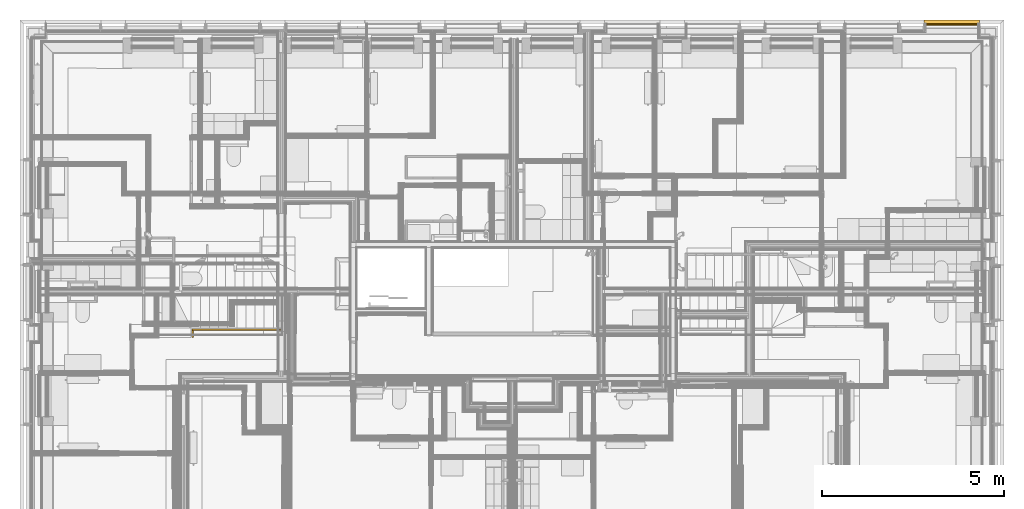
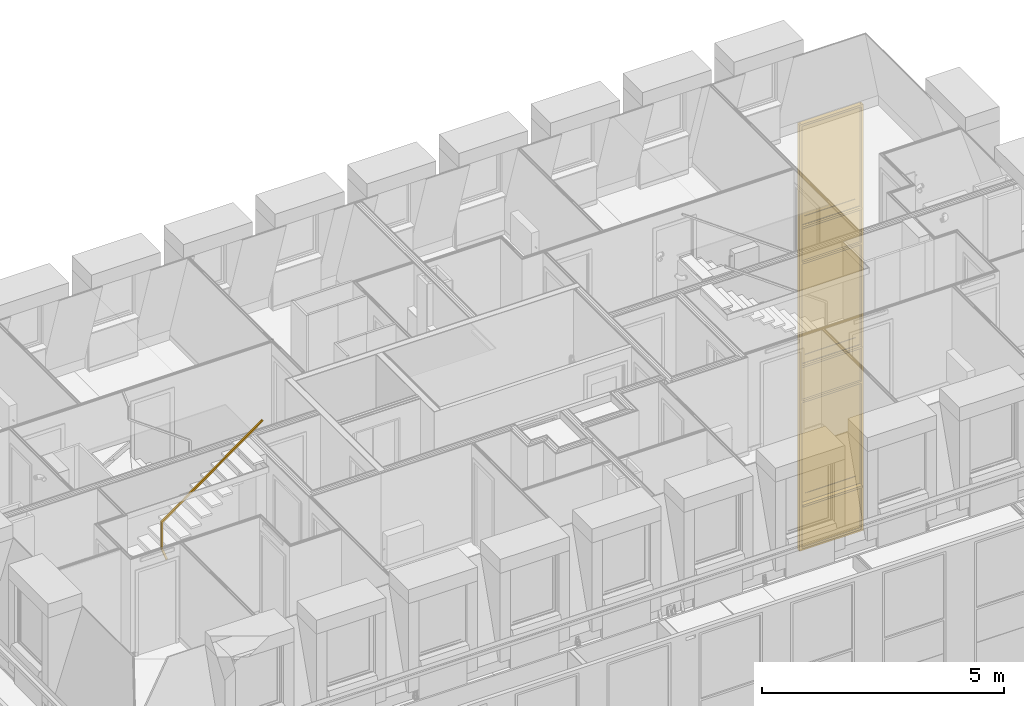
# One storey, part 141 of 169: 1 curtain wall, 1 railing.
"""IFC2X3 building model written with IfcOpenShell, lengths in metres."""

from ifc_helpers import new_model, entity, si_unit, converted_unit, derived_unit, money_unit, direction, frame, origin_with_axes, place, context, subcontext, project, spatial, faceted_brep, material, type_object, element, save


model = new_model("IFC2X3")

# Units and contexts
model_context = context("Model", 3, precision=1e-05, world=origin_with_axes(), true_north=direction((0.0, 1.0)))
body_context = subcontext(model_context, "Body", "Model", "MODEL_VIEW", scale=1.0)
ifc_project = project(units=[si_unit("LENGTHUNIT", "METRE"), si_unit("AREAUNIT", "SQUARE_METRE"), si_unit("VOLUMEUNIT", "CUBIC_METRE"), si_unit("ABSORBEDDOSEUNIT", "GRAY"), si_unit("AMOUNTOFSUBSTANCEUNIT", "MOLE"), si_unit("DOSEEQUIVALENTUNIT", "SIEVERT"), si_unit("ELECTRICCAPACITANCEUNIT", "FARAD"), si_unit("ELECTRICCHARGEUNIT", "COULOMB"), si_unit("ELECTRICCONDUCTANCEUNIT", "SIEMENS"), si_unit("ELECTRICCURRENTUNIT", "AMPERE"), si_unit("ELECTRICRESISTANCEUNIT", "OHM"), si_unit("ELECTRICVOLTAGEUNIT", "VOLT"), si_unit("ENERGYUNIT", "JOULE"), si_unit("FORCEUNIT", "NEWTON"), si_unit("FREQUENCYUNIT", "HERTZ"), si_unit("ILLUMINANCEUNIT", "LUX"), si_unit("INDUCTANCEUNIT", "HENRY"), si_unit("LUMINOUSFLUXUNIT", "LUMEN"), si_unit("LUMINOUSINTENSITYUNIT", "CANDELA"), si_unit("MAGNETICFLUXDENSITYUNIT", "TESLA"), si_unit("MAGNETICFLUXUNIT", "WEBER"), si_unit("MASSUNIT", "GRAM"), converted_unit("PLANEANGLEUNIT", "degree", entity("IfcReal", 0.0174532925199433), si_unit("PLANEANGLEUNIT", "RADIAN"), dimensions=[0, 0, 0, 0, 0, 0, 0]), si_unit("POWERUNIT", "WATT"), si_unit("PRESSUREUNIT", "PASCAL"), si_unit("RADIOACTIVITYUNIT", "BECQUEREL"), si_unit("SOLIDANGLEUNIT", "STERADIAN"), si_unit("THERMODYNAMICTEMPERATUREUNIT", "KELVIN"), si_unit("TIMEUNIT", "SECOND"), derived_unit("ACCELERATIONUNIT", [(si_unit("LENGTHUNIT", "METRE"), 1), (si_unit("TIMEUNIT", "SECOND"), -2)]), derived_unit("ANGULARVELOCITYUNIT", [(converted_unit("PLANEANGLEUNIT", "degree", entity("IfcReal", 0.0174532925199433), si_unit("PLANEANGLEUNIT", "RADIAN"), dimensions=[0, 0, 0, 0, 0, 0, 0]), 1), (si_unit("TIMEUNIT", "SECOND"), -1)]), derived_unit("CURVATUREUNIT", [(converted_unit("PLANEANGLEUNIT", "degree", entity("IfcReal", 0.0174532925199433), si_unit("PLANEANGLEUNIT", "RADIAN"), dimensions=[0, 0, 0, 0, 0, 0, 0]), 1), (si_unit("LENGTHUNIT", "METRE"), -1)]), derived_unit("DYNAMICVISCOSITYUNIT", [(si_unit("PRESSUREUNIT", "PASCAL"), 1), (si_unit("TIMEUNIT", "SECOND"), 1)]), derived_unit("HEATFLUXDENSITYUNIT", [(si_unit("POWERUNIT", "WATT"), 1), (si_unit("LENGTHUNIT", "METRE"), -2)]), derived_unit("HEATINGVALUEUNIT", [(si_unit("ENERGYUNIT", "JOULE"), 1), (si_unit("MASSUNIT", "GRAM"), -1)]), derived_unit("INTEGERCOUNTRATEUNIT", [(si_unit("TIMEUNIT", "SECOND"), -1)]), derived_unit("IONCONCENTRATIONUNIT", [(si_unit("MASSUNIT", "GRAM"), 1), (si_unit("VOLUMEUNIT", "CUBIC_METRE"), -1)]), derived_unit("ISOTHERMALMOISTURECAPACITYUNIT", [(si_unit("VOLUMEUNIT", "CUBIC_METRE"), 1), (si_unit("MASSUNIT", "GRAM"), -1)]), derived_unit("KINEMATICVISCOSITYUNIT", [(si_unit("AREAUNIT", "SQUARE_METRE"), 1), (si_unit("TIMEUNIT", "SECOND"), -1)]), derived_unit("LINEARFORCEUNIT", [(si_unit("FORCEUNIT", "NEWTON"), 1), (si_unit("LENGTHUNIT", "METRE"), -1)]), derived_unit("LINEARMOMENTUNIT", [(si_unit("FORCEUNIT", "NEWTON"), 1), (si_unit("LENGTHUNIT", "METRE"), -1)]), derived_unit("LINEARSTIFFNESSUNIT", [(si_unit("FORCEUNIT", "NEWTON"), 1), (si_unit("LENGTHUNIT", "METRE"), -1)]), derived_unit("LINEARVELOCITYUNIT", [(si_unit("LENGTHUNIT", "METRE"), 1), (si_unit("TIMEUNIT", "SECOND"), -1)]), derived_unit("LUMINOUSINTENSITYDISTRIBUTIONUNIT", [(si_unit("LUMINOUSINTENSITYUNIT", "CANDELA"), 1), (si_unit("LUMINOUSFLUXUNIT", "LUMEN"), -1)]), derived_unit("MASSDENSITYUNIT", [(si_unit("MASSUNIT", "GRAM"), 1), (si_unit("VOLUMEUNIT", "CUBIC_METRE"), -1)]), derived_unit("MASSFLOWRATEUNIT", [(si_unit("MASSUNIT", "GRAM"), 1), (si_unit("TIMEUNIT", "SECOND"), -1)]), derived_unit("MASSPERLENGTHUNIT", [(si_unit("MASSUNIT", "GRAM"), 1), (si_unit("LENGTHUNIT", "METRE"), -1)]), derived_unit("MODULUSOFELASTICITYUNIT", [(si_unit("FORCEUNIT", "NEWTON"), 1), (si_unit("AREAUNIT", "SQUARE_METRE"), -1)]), derived_unit("MODULUSOFLINEARSUBGRADEREACTIONUNIT", [(si_unit("FORCEUNIT", "NEWTON"), 1), (si_unit("LENGTHUNIT", "METRE"), -2)]), derived_unit("MODULUSOFROTATIONALSUBGRADEREACTIONUNIT", [(si_unit("FORCEUNIT", "NEWTON"), 1), (si_unit("LENGTHUNIT", "METRE"), 1)]), derived_unit("MODULUSOFSUBGRADEREACTIONUNIT", [(si_unit("FORCEUNIT", "NEWTON"), 1), (si_unit("VOLUMEUNIT", "CUBIC_METRE"), -1)]), derived_unit("MOISTUREDIFFUSIVITYUNIT", [(si_unit("VOLUMEUNIT", "CUBIC_METRE"), 1), (si_unit("TIMEUNIT", "SECOND"), -1)]), derived_unit("MOLECULARWEIGHTUNIT", [(si_unit("MASSUNIT", "GRAM"), 1), (si_unit("AMOUNTOFSUBSTANCEUNIT", "MOLE"), -1)]), derived_unit("PLANARFORCEUNIT", [(si_unit("FORCEUNIT", "NEWTON"), 1), (si_unit("LENGTHUNIT", "METRE"), -2)]), derived_unit("ROTATIONALFREQUENCYUNIT", [(si_unit("TIMEUNIT", "SECOND"), -1)]), derived_unit("ROTATIONALMASSUNIT", [(si_unit("MASSUNIT", "GRAM"), 1), (si_unit("LENGTHUNIT", "METRE"), 2)]), derived_unit("ROTATIONALSTIFFNESSUNIT", [(si_unit("FORCEUNIT", "NEWTON"), 1), (si_unit("LENGTHUNIT", "METRE"), 1), (converted_unit("PLANEANGLEUNIT", "degree", entity("IfcReal", 0.0174532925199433), si_unit("PLANEANGLEUNIT", "RADIAN"), dimensions=[0, 0, 0, 0, 0, 0, 0]), -1)]), derived_unit("SECTIONAREAINTEGRALUNIT", [(si_unit("LENGTHUNIT", "METRE"), 5)]), derived_unit("SECTIONMODULUSUNIT", [(si_unit("LENGTHUNIT", "METRE"), 3)]), derived_unit("SHEARMODULUSUNIT", [(si_unit("FORCEUNIT", "NEWTON"), 1), (si_unit("AREAUNIT", "SQUARE_METRE"), -1)]), derived_unit("SOUNDPOWERUNIT", [(si_unit("ENERGYUNIT", "JOULE"), 1), (si_unit("TIMEUNIT", "SECOND"), -1)]), derived_unit("SPECIFICHEATCAPACITYUNIT", [(si_unit("FORCEUNIT", "NEWTON"), 1), (si_unit("MASSUNIT", "GRAM"), -1), (si_unit("THERMODYNAMICTEMPERATUREUNIT", "KELVIN"), -1)]), derived_unit("TEMPERATUREGRADIENTUNIT", [(si_unit("THERMODYNAMICTEMPERATUREUNIT", "KELVIN"), 1), (si_unit("LENGTHUNIT", "METRE"), -1)]), derived_unit("THERMALADMITTANCEUNIT", [(si_unit("POWERUNIT", "WATT"), 1), (si_unit("AREAUNIT", "SQUARE_METRE"), -1), (si_unit("THERMODYNAMICTEMPERATUREUNIT", "KELVIN"), -1)]), derived_unit("THERMALCONDUCTANCEUNIT", [(si_unit("POWERUNIT", "WATT"), 1), (si_unit("LENGTHUNIT", "METRE"), -1), (si_unit("THERMODYNAMICTEMPERATUREUNIT", "KELVIN"), -1)]), derived_unit("THERMALEXPANSIONCOEFFICIENTUNIT", [(si_unit("THERMODYNAMICTEMPERATUREUNIT", "KELVIN"), -1)]), derived_unit("THERMALRESISTANCEUNIT", [(si_unit("AREAUNIT", "SQUARE_METRE"), 1), (si_unit("POWERUNIT", "WATT"), -1)]), derived_unit("THERMALTRANSMITTANCEUNIT", [(si_unit("POWERUNIT", "WATT"), 1), (si_unit("AREAUNIT", "SQUARE_METRE"), -1), (si_unit("THERMODYNAMICTEMPERATUREUNIT", "KELVIN"), -1)]), derived_unit("TORQUEUNIT", [(si_unit("FORCEUNIT", "NEWTON"), 1), (si_unit("LENGTHUNIT", "METRE"), 1)]), derived_unit("VAPORPERMEABILITYUNIT", [(si_unit("MASSUNIT", "GRAM"), 1), (si_unit("TIMEUNIT", "SECOND"), -1)]), derived_unit("VOLUMETRICFLOWRATEUNIT", [(si_unit("VOLUMEUNIT", "CUBIC_METRE"), 1), (si_unit("TIMEUNIT", "SECOND"), -1)]), derived_unit("WARPINGCONSTANTUNIT", [(si_unit("LENGTHUNIT", "METRE"), 6)]), derived_unit("WARPINGMOMENTUNIT", [(si_unit("FORCEUNIT", "NEWTON"), 1), (si_unit("LENGTHUNIT", "METRE"), 2)]), money_unit("GBP")], contexts=[model_context])

# Site, building, storey
site_placement = place(None, origin_with_axes())
site = spatial("IfcSite", under=ifc_project, at=site_placement, Name="Site", CompositionType="ELEMENT")
building_placement = place(site_placement, origin_with_axes())
building = spatial("IfcBuilding", under=site, at=building_placement, Name="Building01", CompositionType="ELEMENT")
storey_placement = place(building_placement, frame((0.0, 0.0, 5.15), z_axis=(0.0, 0.0, 1.0), x_axis=(1.0, 0.0, 0.0)))
storey = spatial("IfcBuildingStorey", under=building, at=storey_placement, Name="1F", CompositionType="ELEMENT", Elevation=5.15)

# Curtain wall
ifc_material_1 = material(Name="A-CurtainWall_Frame")
curtain_wall_type = type_object("IfcCurtainWallType", Name="Pattern - Maximum Spacing", PredefinedType="NOTDEFINED")
curtain_wall_placement = place(storey_placement, frame((0.0, 0.0, -5.15), z_axis=(0.0, 0.0, 1.0), x_axis=(1.0, 0.0, 0.0)))
element("IfcCurtainWall", 1, at=curtain_wall_placement, inside=storey, type_object=curtain_wall_type, material=ifc_material_1, Name="01", ObjectType="Pattern - Maximum Spacing", context=body_context, shape_type="Brep", body=[
    faceted_brep([(26.28, 14.85, 5.118945), (26.28, 14.87, 5.118945), (24.82, 14.87, 5.118945), (24.82, 14.85, 5.118945), (26.28, 14.85, 4.0), (26.28, 14.87, 4.0), (24.82, 14.85, 4.0), (24.82, 14.87, 4.0)], [[[0, 1, 2, 3]], [[4, 5, 1, 0]], [[6, 7, 5, 4]], [[3, 2, 7, 6]], [[1, 5, 7, 2]], [[3, 6, 4, 0]]]),
    faceted_brep([(24.79, 14.9, 3.97), (24.84, 14.9, 3.97), (24.84, 14.865, 3.97), (24.82, 14.865, 3.97), (24.82, 14.855, 3.97), (24.84, 14.855, 3.97), (24.84, 14.8, 3.97), (24.79, 14.8, 3.97), (24.79, 14.8, 5.123945), (24.79, 14.9, 5.123945), (24.84, 14.9, 5.123945), (24.84, 14.865, 5.123945), (24.82, 14.865, 5.123945), (24.82, 14.855, 5.123945), (24.84, 14.855, 5.123945), (24.84, 14.8, 5.123945)], [[[0, 1, 2, 3, 4, 5, 6, 7]], [[7, 8, 9, 0]], [[0, 9, 10, 1]], [[1, 10, 11, 2]], [[2, 11, 12, 3]], [[3, 12, 13, 4]], [[4, 13, 14, 5]], [[5, 14, 15, 6]], [[6, 15, 8, 7]]]),
    faceted_brep([(26.26, 14.9, 4.02), (26.26, 14.865, 4.02), (26.26, 14.865, 4.0), (26.26, 14.855, 4.0), (26.26, 14.855, 4.02), (26.26, 14.8, 4.02), (26.26, 14.8, 3.97), (26.26, 14.9, 3.97), (24.84, 14.9, 3.97), (24.84, 14.9, 4.02), (24.84, 14.865, 4.02), (24.84, 14.865, 4.0), (24.84, 14.855, 4.0), (24.84, 14.855, 4.02), (24.84, 14.8, 4.02), (24.84, 14.8, 3.97)], [[[0, 1, 2, 3, 4, 5, 6, 7]], [[7, 8, 9, 0]], [[0, 9, 10, 1]], [[1, 10, 11, 2]], [[2, 11, 12, 3]], [[3, 12, 13, 4]], [[4, 13, 14, 5]], [[5, 14, 15, 6]], [[6, 15, 8, 7]], [[8, 15, 14, 13, 12, 11, 10, 9]]]),
    faceted_brep([(26.31, 14.9, 3.97), (26.31, 14.9, 5.123945), (26.31, 14.8, 5.123945), (26.31, 14.8, 3.97), (26.26, 14.9, 3.97), (26.26, 14.9, 5.123945), (26.26, 14.865, 3.97), (26.26, 14.865, 5.123945), (26.28, 14.865, 3.97), (26.28, 14.865, 5.123945), (26.28, 14.855, 3.97), (26.28, 14.855, 5.123945), (26.26, 14.855, 3.97), (26.26, 14.855, 5.123945), (26.26, 14.8, 3.97), (26.26, 14.8, 5.123945)], [[[0, 1, 2, 3]], [[4, 5, 1, 0]], [[6, 7, 5, 4]], [[8, 9, 7, 6]], [[10, 11, 9, 8]], [[12, 13, 11, 10]], [[14, 15, 13, 12]], [[3, 2, 15, 14]], [[14, 12, 10, 8, 6, 4, 0, 3]]]),
    faceted_brep([(24.84, 14.85, 5.128945), (24.84, 14.87, 5.128945), (24.84, 14.87, 5.148945), (24.84, 14.9, 5.148945), (24.84, 14.9, 5.098945), (24.84, 14.87, 5.098945), (24.84, 14.87, 5.118945), (24.84, 14.85, 5.118945), (24.84, 14.85, 5.098945), (24.84, 14.75, 5.098945), (24.84, 14.75, 5.148945), (24.84, 14.85, 5.148945), (26.26, 14.85, 5.148945), (26.26, 14.85, 5.128945), (26.26, 14.87, 5.128945), (26.26, 14.87, 5.148945), (26.26, 14.9, 5.148945), (26.26, 14.9, 5.098945), (26.26, 14.87, 5.098945), (26.26, 14.85, 5.118945), (26.26, 14.85, 5.098945), (26.26, 14.87, 5.118945), (26.26, 14.75, 5.148945), (26.26, 14.75, 5.098945)], [[[0, 1, 2, 3, 4, 5, 6, 7, 8, 9, 10, 11]], [[11, 12, 13, 0]], [[0, 13, 14, 1]], [[1, 14, 15, 2]], [[2, 15, 16, 3]], [[3, 16, 17, 4]], [[4, 17, 18, 5]], [[7, 19, 20, 8]], [[6, 21, 19, 7]], [[5, 18, 21, 6]], [[10, 22, 12, 11]], [[9, 23, 22, 10]], [[8, 20, 23, 9]], [[20, 19, 21, 18, 17, 16, 15, 14, 13, 12, 22, 23]]]),
    faceted_brep([(26.28, 14.85, 8.615677), (26.28, 14.87, 8.615677), (24.82, 14.87, 8.615677), (24.82, 14.85, 8.615677), (26.28, 14.85, 7.726517), (26.28, 14.87, 7.726517), (24.82, 14.85, 7.726517), (24.82, 14.87, 7.726517)], [[[0, 1, 2, 3]], [[4, 5, 1, 0]], [[6, 7, 5, 4]], [[3, 2, 7, 6]], [[1, 5, 7, 2]], [[3, 6, 4, 0]]]),
    faceted_brep([(24.84, 14.8, 8.620677), (24.84, 14.8, 7.721517), (24.84, 14.855, 7.721517), (24.84, 14.855, 8.620677), (24.79, 14.8, 8.620677), (24.79, 14.8, 7.721517), (24.79, 14.9, 8.620677), (24.79, 14.9, 7.721517), (24.84, 14.9, 8.620677), (24.84, 14.9, 7.721517), (24.84, 14.865, 8.620677), (24.84, 14.865, 7.721517), (24.82, 14.865, 8.620677), (24.82, 14.865, 7.721517), (24.82, 14.855, 8.620677), (24.82, 14.855, 7.721517)], [[[0, 1, 2, 3]], [[4, 5, 1, 0]], [[6, 7, 5, 4]], [[8, 9, 7, 6]], [[10, 11, 9, 8]], [[12, 13, 11, 10]], [[14, 15, 13, 12]], [[3, 2, 15, 14]]]),
    faceted_brep([(26.26, 14.865, 7.726517), (26.26, 14.855, 7.726517), (26.26, 14.855, 7.746517), (26.26, 14.8, 7.746517), (26.26, 14.8, 7.696517), (26.26, 14.855, 7.696517), (26.26, 14.855, 7.716517), (26.26, 14.865, 7.716517), (26.26, 14.865, 7.696517), (26.26, 14.9, 7.696517), (26.26, 14.9, 7.746517), (26.26, 14.865, 7.746517), (24.84, 14.865, 7.746517), (24.84, 14.865, 7.726517), (24.84, 14.855, 7.726517), (24.84, 14.855, 7.746517), (24.84, 14.8, 7.746517), (24.84, 14.8, 7.696517), (24.84, 14.855, 7.696517), (24.84, 14.865, 7.716517), (24.84, 14.865, 7.696517), (24.84, 14.855, 7.716517), (24.84, 14.9, 7.746517), (24.84, 14.9, 7.696517)], [[[0, 1, 2, 3, 4, 5, 6, 7, 8, 9, 10, 11]], [[11, 12, 13, 0]], [[0, 13, 14, 1]], [[1, 14, 15, 2]], [[2, 15, 16, 3]], [[3, 16, 17, 4]], [[4, 17, 18, 5]], [[7, 19, 20, 8]], [[6, 21, 19, 7]], [[5, 18, 21, 6]], [[10, 22, 12, 11]], [[9, 23, 22, 10]], [[8, 20, 23, 9]], [[20, 19, 21, 18, 17, 16, 15, 14, 13, 12, 22, 23]]]),
    faceted_brep([(26.31, 14.9, 7.721517), (26.31, 14.9, 8.620677), (26.31, 14.8, 8.620677), (26.31, 14.8, 7.721517), (26.26, 14.9, 7.721517), (26.26, 14.9, 8.620677), (26.26, 14.865, 7.721517), (26.26, 14.865, 8.620677), (26.28, 14.865, 7.721517), (26.28, 14.865, 8.620677), (26.28, 14.855, 7.721517), (26.28, 14.855, 8.620677), (26.26, 14.855, 7.721517), (26.26, 14.855, 8.620677), (26.26, 14.8, 7.721517), (26.26, 14.8, 8.620677)], [[[0, 1, 2, 3]], [[4, 5, 1, 0]], [[6, 7, 5, 4]], [[8, 9, 7, 6]], [[10, 11, 9, 8]], [[12, 13, 11, 10]], [[14, 15, 13, 12]], [[3, 2, 15, 14]]]),
    faceted_brep([(24.84, 14.8375, 8.625677), (24.84, 14.8475, 8.625677), (24.84, 14.8475, 8.645677), (24.84, 14.8825, 8.645677), (24.84, 14.8825, 8.595677), (24.84, 14.8475, 8.595677), (24.84, 14.8475, 8.615677), (24.84, 14.8375, 8.615677), (24.84, 14.8375, 8.595677), (24.84, 14.7825, 8.595677), (24.84, 14.7825, 8.645677), (24.84, 14.8375, 8.645677), (26.26, 14.8375, 8.645677), (26.26, 14.8375, 8.625677), (26.26, 14.8475, 8.625677), (26.26, 14.8475, 8.645677), (26.26, 14.8825, 8.645677), (26.26, 14.8825, 8.595677), (26.26, 14.8475, 8.595677), (26.26, 14.8375, 8.615677), (26.26, 14.8375, 8.595677), (26.26, 14.8475, 8.615677), (26.26, 14.7825, 8.645677), (26.26, 14.7825, 8.595677)], [[[0, 1, 2, 3, 4, 5, 6, 7, 8, 9, 10, 11]], [[11, 12, 13, 0]], [[0, 13, 14, 1]], [[1, 14, 15, 2]], [[2, 15, 16, 3]], [[3, 16, 17, 4]], [[4, 17, 18, 5]], [[7, 19, 20, 8]], [[6, 21, 19, 7]], [[5, 18, 21, 6]], [[10, 22, 12, 11]], [[9, 23, 22, 10]], [[8, 20, 23, 9]], [[20, 19, 21, 18, 17, 16, 15, 14, 13, 12, 22, 23]]]),
    faceted_brep([(26.28, 14.85, 12.112409), (26.28, 14.87, 12.112409), (24.82, 14.87, 12.112409), (24.82, 14.85, 12.112409), (26.28, 14.85, 11.223249), (26.28, 14.87, 11.223249), (24.82, 14.85, 11.223249), (24.82, 14.87, 11.223249)], [[[0, 1, 2, 3]], [[4, 5, 1, 0]], [[6, 7, 5, 4]], [[3, 2, 7, 6]], [[1, 5, 7, 2]], [[3, 6, 4, 0]]]),
    faceted_brep([(24.84, 14.8, 12.117409), (24.84, 14.8, 11.218249), (24.84, 14.855, 11.218249), (24.84, 14.855, 12.117409), (24.79, 14.8, 12.117409), (24.79, 14.8, 11.218249), (24.79, 14.9, 12.117409), (24.79, 14.9, 11.218249), (24.84, 14.9, 12.117409), (24.84, 14.9, 11.218249), (24.84, 14.865, 12.117409), (24.84, 14.865, 11.218249), (24.82, 14.865, 12.117409), (24.82, 14.865, 11.218249), (24.82, 14.855, 12.117409), (24.82, 14.855, 11.218249)], [[[0, 1, 2, 3]], [[4, 5, 1, 0]], [[6, 7, 5, 4]], [[8, 9, 7, 6]], [[10, 11, 9, 8]], [[12, 13, 11, 10]], [[14, 15, 13, 12]], [[3, 2, 15, 14]]]),
    faceted_brep([(26.26, 14.865, 11.223249), (26.26, 14.855, 11.223249), (26.26, 14.855, 11.243249), (26.26, 14.8, 11.243249), (26.26, 14.8, 11.193249), (26.26, 14.855, 11.193249), (26.26, 14.855, 11.213249), (26.26, 14.865, 11.213249), (26.26, 14.865, 11.193249), (26.26, 14.9, 11.193249), (26.26, 14.9, 11.243249), (26.26, 14.865, 11.243249), (24.84, 14.865, 11.243249), (24.84, 14.865, 11.223249), (24.84, 14.855, 11.223249), (24.84, 14.855, 11.243249), (24.84, 14.8, 11.243249), (24.84, 14.8, 11.193249), (24.84, 14.855, 11.193249), (24.84, 14.865, 11.213249), (24.84, 14.865, 11.193249), (24.84, 14.855, 11.213249), (24.84, 14.9, 11.243249), (24.84, 14.9, 11.193249)], [[[0, 1, 2, 3, 4, 5, 6, 7, 8, 9, 10, 11]], [[11, 12, 13, 0]], [[0, 13, 14, 1]], [[1, 14, 15, 2]], [[2, 15, 16, 3]], [[3, 16, 17, 4]], [[4, 17, 18, 5]], [[7, 19, 20, 8]], [[6, 21, 19, 7]], [[5, 18, 21, 6]], [[10, 22, 12, 11]], [[9, 23, 22, 10]], [[8, 20, 23, 9]], [[20, 19, 21, 18, 17, 16, 15, 14, 13, 12, 22, 23]]]),
    faceted_brep([(26.31, 14.9, 11.218249), (26.31, 14.9, 12.117409), (26.31, 14.8, 12.117409), (26.31, 14.8, 11.218249), (26.26, 14.9, 11.218249), (26.26, 14.9, 12.117409), (26.26, 14.865, 11.218249), (26.26, 14.865, 12.117409), (26.28, 14.865, 11.218249), (26.28, 14.865, 12.117409), (26.28, 14.855, 11.218249), (26.28, 14.855, 12.117409), (26.26, 14.855, 11.218249), (26.26, 14.855, 12.117409), (26.26, 14.8, 11.218249), (26.26, 14.8, 12.117409)], [[[0, 1, 2, 3]], [[4, 5, 1, 0]], [[6, 7, 5, 4]], [[8, 9, 7, 6]], [[10, 11, 9, 8]], [[12, 13, 11, 10]], [[14, 15, 13, 12]], [[3, 2, 15, 14]]]),
    faceted_brep([(24.84, 14.8375, 12.122409), (24.84, 14.8475, 12.122409), (24.84, 14.8475, 12.142409), (24.84, 14.8825, 12.142409), (24.84, 14.8825, 12.092409), (24.84, 14.8475, 12.092409), (24.84, 14.8475, 12.112409), (24.84, 14.8375, 12.112409), (24.84, 14.8375, 12.092409), (24.84, 14.7825, 12.092409), (24.84, 14.7825, 12.142409), (24.84, 14.8375, 12.142409), (26.26, 14.8375, 12.142409), (26.26, 14.8375, 12.122409), (26.26, 14.8475, 12.122409), (26.26, 14.8475, 12.142409), (26.26, 14.8825, 12.142409), (26.26, 14.8825, 12.092409), (26.26, 14.8475, 12.092409), (26.26, 14.8375, 12.112409), (26.26, 14.8375, 12.092409), (26.26, 14.8475, 12.112409), (26.26, 14.7825, 12.142409), (26.26, 14.7825, 12.092409)], [[[0, 1, 2, 3, 4, 5, 6, 7, 8, 9, 10, 11]], [[11, 12, 13, 0]], [[0, 13, 14, 1]], [[1, 14, 15, 2]], [[2, 15, 16, 3]], [[3, 16, 17, 4]], [[4, 17, 18, 5]], [[7, 19, 20, 8]], [[6, 21, 19, 7]], [[5, 18, 21, 6]], [[10, 22, 12, 11]], [[9, 23, 22, 10]], [[8, 20, 23, 9]], [[20, 19, 21, 18, 17, 16, 15, 14, 13, 12, 22, 23]]]),
    faceted_brep([(24.94, 14.89, 7.596517), (24.94, 14.87, 7.596517), (26.16, 14.87, 7.596517), (26.16, 14.89, 7.596517), (26.16, 14.87, 5.348945), (26.16, 14.89, 5.348945), (24.94, 14.87, 5.348945), (24.94, 14.89, 5.348945)], [[[0, 1, 2, 3]], [[3, 2, 4, 5]], [[5, 4, 6, 7]], [[7, 6, 1, 0]], [[1, 6, 4, 2]], [[3, 5, 7, 0]]]),
    faceted_brep([(24.84, 14.86, 7.696517), (24.84, 14.86, 5.148945), (26.26, 14.86, 5.148945), (26.26, 14.86, 7.696517), (26.16, 14.86, 5.348945), (24.94, 14.86, 5.348945), (24.94, 14.86, 7.596517), (26.16, 14.86, 7.596517), (26.26, 14.9, 7.696517), (26.26, 14.9, 5.148945), (24.84, 14.9, 5.148945), (24.84, 14.9, 7.696517), (24.94, 14.9, 7.596517), (24.94, 14.9, 5.348945), (26.16, 14.9, 5.348945), (26.16, 14.9, 7.596517)], [[[0, 1, 2, 3], [4, 5, 6, 7]], [[8, 9, 10, 11], [12, 13, 14, 15]], [[11, 0, 3, 8]], [[8, 3, 2, 9]], [[9, 2, 1, 10]], [[10, 1, 0, 11]], [[7, 6, 12, 15]], [[4, 7, 15, 14]], [[5, 4, 14, 13]], [[6, 5, 13, 12]]]),
    faceted_brep([(26.31, 14.9, 5.123945), (26.31, 14.9, 7.721517), (26.31, 14.8, 7.721517), (26.31, 14.8, 5.123945), (26.26, 14.9, 5.123945), (26.26, 14.9, 7.721517), (26.26, 14.865, 5.123945), (26.26, 14.865, 7.721517), (26.28, 14.865, 5.123945), (26.28, 14.865, 7.721517), (26.28, 14.855, 5.123945), (26.28, 14.855, 7.721517), (26.26, 14.855, 5.123945), (26.26, 14.855, 7.721517), (26.26, 14.8, 5.123945), (26.26, 14.8, 7.721517)], [[[0, 1, 2, 3]], [[4, 5, 1, 0]], [[6, 7, 5, 4]], [[8, 9, 7, 6]], [[10, 11, 9, 8]], [[12, 13, 11, 10]], [[14, 15, 13, 12]], [[3, 2, 15, 14]]]),
    faceted_brep([(24.84, 14.8, 7.721517), (24.84, 14.8, 5.123945), (24.84, 14.855, 5.123945), (24.84, 14.855, 7.721517), (24.79, 14.8, 7.721517), (24.79, 14.8, 5.123945), (24.79, 14.9, 7.721517), (24.79, 14.9, 5.123945), (24.84, 14.9, 7.721517), (24.84, 14.9, 5.123945), (24.84, 14.865, 7.721517), (24.84, 14.865, 5.123945), (24.82, 14.865, 7.721517), (24.82, 14.865, 5.123945), (24.82, 14.855, 7.721517), (24.82, 14.855, 5.123945)], [[[0, 1, 2, 3]], [[4, 5, 1, 0]], [[6, 7, 5, 4]], [[8, 9, 7, 6]], [[10, 11, 9, 8]], [[12, 13, 11, 10]], [[14, 15, 13, 12]], [[3, 2, 15, 14]]]),
    faceted_brep([(24.94, 14.89, 11.093249), (24.94, 14.87, 11.093249), (26.16, 14.87, 11.093249), (26.16, 14.89, 11.093249), (26.16, 14.87, 8.845677), (26.16, 14.89, 8.845677), (24.94, 14.87, 8.845677), (24.94, 14.89, 8.845677)], [[[0, 1, 2, 3]], [[3, 2, 4, 5]], [[5, 4, 6, 7]], [[7, 6, 1, 0]], [[1, 6, 4, 2]], [[3, 5, 7, 0]]]),
    faceted_brep([(24.84, 14.86, 11.193249), (24.84, 14.86, 8.645677), (26.26, 14.86, 8.645677), (26.26, 14.86, 11.193249), (26.16, 14.86, 8.845677), (24.94, 14.86, 8.845677), (24.94, 14.86, 11.093249), (26.16, 14.86, 11.093249), (26.26, 14.9, 11.193249), (26.26, 14.9, 8.645677), (24.84, 14.9, 8.645677), (24.84, 14.9, 11.193249), (24.94, 14.9, 11.093249), (24.94, 14.9, 8.845677), (26.16, 14.9, 8.845677), (26.16, 14.9, 11.093249)], [[[0, 1, 2, 3], [4, 5, 6, 7]], [[8, 9, 10, 11], [12, 13, 14, 15]], [[11, 0, 3, 8]], [[8, 3, 2, 9]], [[9, 2, 1, 10]], [[10, 1, 0, 11]], [[7, 6, 12, 15]], [[4, 7, 15, 14]], [[5, 4, 14, 13]], [[6, 5, 13, 12]]]),
    faceted_brep([(26.31, 14.9, 8.620677), (26.31, 14.9, 11.218249), (26.31, 14.8, 11.218249), (26.31, 14.8, 8.620677), (26.26, 14.9, 8.620677), (26.26, 14.9, 11.218249), (26.26, 14.865, 8.620677), (26.26, 14.865, 11.218249), (26.28, 14.865, 8.620677), (26.28, 14.865, 11.218249), (26.28, 14.855, 8.620677), (26.28, 14.855, 11.218249), (26.26, 14.855, 8.620677), (26.26, 14.855, 11.218249), (26.26, 14.8, 8.620677), (26.26, 14.8, 11.218249)], [[[0, 1, 2, 3]], [[4, 5, 1, 0]], [[6, 7, 5, 4]], [[8, 9, 7, 6]], [[10, 11, 9, 8]], [[12, 13, 11, 10]], [[14, 15, 13, 12]], [[3, 2, 15, 14]]]),
    faceted_brep([(24.84, 14.8, 11.218249), (24.84, 14.8, 8.620677), (24.84, 14.855, 8.620677), (24.84, 14.855, 11.218249), (24.79, 14.8, 11.218249), (24.79, 14.8, 8.620677), (24.79, 14.9, 11.218249), (24.79, 14.9, 8.620677), (24.84, 14.9, 11.218249), (24.84, 14.9, 8.620677), (24.84, 14.865, 11.218249), (24.84, 14.865, 8.620677), (24.82, 14.865, 11.218249), (24.82, 14.865, 8.620677), (24.82, 14.855, 11.218249), (24.82, 14.855, 8.620677)], [[[0, 1, 2, 3]], [[4, 5, 1, 0]], [[6, 7, 5, 4]], [[8, 9, 7, 6]], [[10, 11, 9, 8]], [[12, 13, 11, 10]], [[14, 15, 13, 12]], [[3, 2, 15, 14]]]),
    faceted_brep([(24.82, 14.865, 14.72), (24.84, 14.865, 14.72), (24.84, 14.9, 14.72), (24.79, 14.9, 14.72), (24.79, 14.8, 14.72), (24.84, 14.8, 14.72), (24.84, 14.855, 14.72), (24.82, 14.855, 14.72), (24.82, 14.855, 12.117409), (24.82, 14.865, 12.117409), (24.84, 14.865, 12.117409), (24.84, 14.9, 12.117409), (24.79, 14.9, 12.117409), (24.79, 14.8, 12.117409), (24.84, 14.8, 12.117409), (24.84, 14.855, 12.117409)], [[[0, 1, 2, 3, 4, 5, 6, 7]], [[7, 8, 9, 0]], [[0, 9, 10, 1]], [[1, 10, 11, 2]], [[2, 11, 12, 3]], [[3, 12, 13, 4]], [[4, 13, 14, 5]], [[5, 14, 15, 6]], [[6, 15, 8, 7]]]),
    faceted_brep([(26.26, 14.8, 14.67), (26.26, 14.855, 14.67), (26.26, 14.855, 14.69), (26.26, 14.865, 14.69), (26.26, 14.865, 14.67), (26.26, 14.9, 14.67), (26.26, 14.9, 14.72), (26.26, 14.8, 14.72), (24.84, 14.8, 14.72), (24.84, 14.8, 14.67), (24.84, 14.855, 14.67), (24.84, 14.855, 14.69), (24.84, 14.865, 14.69), (24.84, 14.865, 14.67), (24.84, 14.9, 14.67), (24.84, 14.9, 14.72)], [[[0, 1, 2, 3, 4, 5, 6, 7]], [[7, 8, 9, 0]], [[0, 9, 10, 1]], [[1, 10, 11, 2]], [[2, 11, 12, 3]], [[3, 12, 13, 4]], [[4, 13, 14, 5]], [[5, 14, 15, 6]], [[6, 15, 8, 7]], [[8, 15, 14, 13, 12, 11, 10, 9]]]),
    faceted_brep([(26.28, 14.865, 14.72), (26.28, 14.865, 12.117409), (26.28, 14.855, 12.117409), (26.28, 14.855, 14.72), (26.26, 14.865, 14.72), (26.26, 14.865, 12.117409), (26.26, 14.9, 14.72), (26.26, 14.9, 12.117409), (26.31, 14.9, 14.72), (26.31, 14.9, 12.117409), (26.31, 14.8, 14.72), (26.31, 14.8, 12.117409), (26.26, 14.8, 14.72), (26.26, 14.8, 12.117409), (26.26, 14.855, 14.72), (26.26, 14.855, 12.117409)], [[[0, 1, 2, 3]], [[4, 5, 1, 0]], [[6, 7, 5, 4]], [[8, 9, 7, 6]], [[10, 11, 9, 8]], [[12, 13, 11, 10]], [[14, 15, 13, 12]], [[3, 2, 15, 14]], [[14, 12, 10, 8, 6, 4, 0, 3]]]),
    faceted_brep([(24.94, 14.89, 14.57), (24.94, 14.87, 14.57), (26.16, 14.87, 14.57), (26.16, 14.89, 14.57), (26.16, 14.87, 12.342409), (26.16, 14.89, 12.342409), (24.94, 14.87, 12.342409), (24.94, 14.89, 12.342409)], [[[0, 1, 2, 3]], [[3, 2, 4, 5]], [[5, 4, 6, 7]], [[7, 6, 1, 0]], [[1, 6, 4, 2]], [[3, 5, 7, 0]]]),
    faceted_brep([(24.84, 14.86, 14.67), (24.84, 14.86, 12.142409), (26.26, 14.86, 12.142409), (26.26, 14.86, 14.67), (26.16, 14.86, 12.342409), (24.94, 14.86, 12.342409), (24.94, 14.86, 14.57), (26.16, 14.86, 14.57), (26.26, 14.9, 14.67), (26.26, 14.9, 12.142409), (24.84, 14.9, 12.142409), (24.84, 14.9, 14.67), (24.94, 14.9, 14.57), (24.94, 14.9, 12.342409), (26.16, 14.9, 12.342409), (26.16, 14.9, 14.57)], [[[0, 1, 2, 3], [4, 5, 6, 7]], [[8, 9, 10, 11], [12, 13, 14, 15]], [[11, 0, 3, 8]], [[8, 3, 2, 9]], [[9, 2, 1, 10]], [[10, 1, 0, 11]], [[7, 6, 12, 15]], [[4, 7, 15, 14]], [[5, 4, 14, 13]], [[6, 5, 13, 12]]]),
])

# Railing
ifc_material_2 = material(Name="A_BSUK_Steel_Miscellaneous")
railing_type = type_object("IfcRailingType", Name="S-Handrail-900mm", PredefinedType="NOTDEFINED")
railing_placement = place(storey_placement, frame((7.126587, 6.511889, 12.525267), z_axis=(0.0, 0.0, 1.0), x_axis=(1.0, 0.0, 0.0)))
element("IfcRailing", 2, at=railing_placement, inside=storey, type_object=railing_type, material=ifc_material_2, Name="S-Handrail-900mm", ObjectType="S-Handrail-900mm", PredefinedType="HANDRAIL", context=body_context, shape_type="Brep", body=[
    faceted_brep([(0.023372, -0.08, 0.867539), (0.0, -0.08, 0.9), (0.0, -0.12, 0.9), (0.023372, -0.12, 0.867539), (0.021035, -0.084, 0.870785), (0.021035, -0.116, 0.870785), (0.002337, -0.116, 0.896754), (0.002337, -0.084, 0.896754), (-2.373426, -0.12, -0.858156), (-2.373426, -0.08, -0.858156), (-2.413426, -0.08, -0.837667), (-2.413426, -0.12, -0.837667), (-2.377426, -0.116, -0.856107), (-2.377426, -0.084, -0.856107), (-2.409426, -0.084, -0.839716), (-2.409426, -0.116, -0.839716)], [[[0, 1, 2, 3], [4, 5, 6, 7]], [[8, 9, 0, 3]], [[9, 10, 1, 0]], [[10, 11, 2, 1]], [[11, 8, 3, 2]], [[12, 5, 4, 13]], [[13, 4, 7, 14]], [[14, 7, 6, 15]], [[15, 6, 5, 12]], [[8, 11, 10, 9], [12, 13, 14, 15]]]),
    faceted_brep([(-2.413426, -0.08, -0.837667), (-2.373426, -0.08, -0.858156), (-2.373426, -0.08, -1.542156), (-2.413426, -0.08, -1.542156), (-2.413426, -0.12, -1.521667), (-2.413426, -0.12, -0.837667), (-2.373426, -0.12, -1.521667), (-2.373426, -0.12, -0.858156), (-2.377426, -0.084, -1.540107), (-2.377426, -0.084, -0.856107), (-2.409426, -0.084, -0.839716), (-2.409426, -0.084, -1.540107), (-2.409426, -0.116, -0.839716), (-2.409426, -0.116, -1.523716), (-2.377426, -0.116, -0.856107), (-2.377426, -0.116, -1.523716)], [[[0, 1, 2, 3]], [[3, 4, 5, 0]], [[4, 6, 7, 5]], [[6, 2, 1, 7]], [[8, 9, 10, 11]], [[11, 10, 12, 13]], [[13, 12, 14, 15]], [[15, 14, 9, 8]], [[0, 5, 7, 1], [10, 9, 14, 12]], [[2, 6, 4, 3], [8, 11, 13, 15]]]),
    faceted_brep([(-2.373426, -0.288578, -1.692332), (-2.373426, -0.31195, -1.659871), (-2.413426, -0.31195, -1.659871), (-2.413426, -0.288578, -1.692332), (-2.409426, -0.290915, -1.689086), (-2.409426, -0.309613, -1.663117), (-2.377426, -0.309613, -1.663117), (-2.377426, -0.290915, -1.689086), (-2.413426, -0.08, -1.542156), (-2.373426, -0.08, -1.542156), (-2.413426, -0.12, -1.521667), (-2.373426, -0.12, -1.521667), (-2.409426, -0.084, -1.540107), (-2.377426, -0.084, -1.540107), (-2.409426, -0.116, -1.523716), (-2.377426, -0.116, -1.523716)], [[[0, 1, 2, 3], [4, 5, 6, 7]], [[8, 9, 0, 3]], [[10, 8, 3, 2]], [[11, 10, 2, 1]], [[9, 11, 1, 0]], [[12, 4, 7, 13]], [[14, 5, 4, 12]], [[15, 6, 5, 14]], [[13, 7, 6, 15]], [[8, 10, 11, 9], [12, 13, 15, 14]]]),
])

save(model, "model.ifc")
